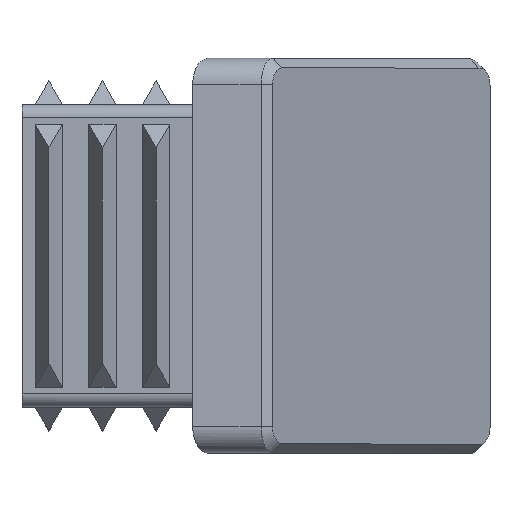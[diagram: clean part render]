
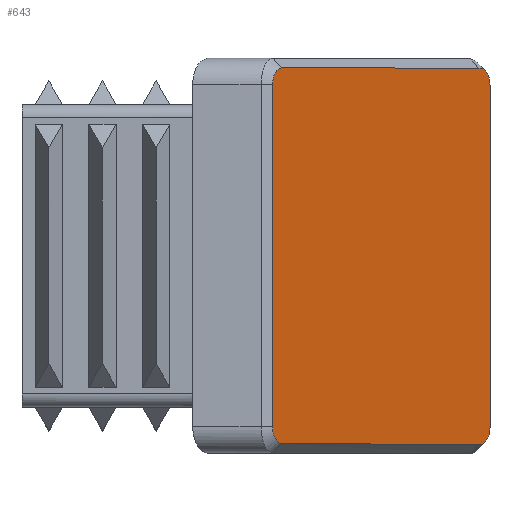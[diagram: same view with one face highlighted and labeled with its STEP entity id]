
A CAD part, top view. The second image highlights one B-rep face of the part: STEP entity #643.
In plain terms, the highlighted planar face has unit normal (0.866, 0, 0.5).
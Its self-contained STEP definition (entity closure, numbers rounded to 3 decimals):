
#6 = CARTESIAN_POINT ( 'NONE',  ( 94.415, 29.293, 32.052 ) ) ;
#22 = DIRECTION ( 'NONE',  ( 0., -1., 0. ) ) ;
#46 = CARTESIAN_POINT ( 'NONE',  ( 95.144, 1.272, 30.789 ) ) ;
#50 = CARTESIAN_POINT ( 'NONE',  ( 78.453, 30., 59.698 ) ) ;
#67 = EDGE_CURVE ( 'NONE', #1154, #1789, #399, .T. ) ;
#77 = CARTESIAN_POINT ( 'NONE',  ( 78.885, 1.233, 58.95 ) ) ;
#200 = EDGE_CURVE ( 'NONE', #1865, #1154, #1500, .T. ) ;
#238 = CARTESIAN_POINT ( 'NONE',  ( 78.742, 28., 59.198 ) ) ;
#240 = CARTESIAN_POINT ( 'NONE',  ( 95.041, 1.057, 30.967 ) ) ;
#247 = CARTESIAN_POINT ( 'NONE',  ( 95.241, 28.38, 30.622 ) ) ;
#304 = CARTESIAN_POINT ( 'NONE',  ( 78.905, 1.19, 58.916 ) ) ;
#314 = ORIENTED_EDGE ( 'NONE', *, *, #2303, .T. ) ;
#321 = CARTESIAN_POINT ( 'NONE',  ( 78.742, 2., 59.198 ) ) ;
#348 = ORIENTED_EDGE ( 'NONE', *, *, #2866, .T. ) ;
#399 = LINE ( 'NONE', #1353, #1635 ) ;
#424 = CARTESIAN_POINT ( 'NONE',  ( 79.404, 0.707, 58.052 ) ) ;
#440 = CARTESIAN_POINT ( 'NONE',  ( 95.084, 28.882, 30.893 ) ) ;
#454 = CARTESIAN_POINT ( 'NONE',  ( 95.15, 28.736, 30.779 ) ) ;
#482 = CARTESIAN_POINT ( 'NONE',  ( 95.274, 1.805, 30.565 ) ) ;
#494 = CARTESIAN_POINT ( 'NONE',  ( 79.165, 29.194, 58.466 ) ) ;
#511 = DIRECTION ( 'NONE',  ( -0.5, 0., 0.866 ) ) ;
#537 = CARTESIAN_POINT ( 'NONE',  ( 78.742, 1.845, 59.198 ) ) ;
#538 = CARTESIAN_POINT ( 'NONE',  ( 95.274, 30., 30.565 ) ) ;
#618 = CARTESIAN_POINT ( 'NONE',  ( 94.415, 0.707, 32.052 ) ) ;
#624 = EDGE_LOOP ( 'NONE', ( #1395, #314, #348, #1855, #2527, #1430, #633, #2272 ) ) ;
#633 = ORIENTED_EDGE ( 'NONE', *, *, #67, .T. ) ;
#643 = ADVANCED_FACE ( 'NONE', ( #2855 ), #1456, .F. ) ;
#661 = CARTESIAN_POINT ( 'NONE',  ( 95.097, 1.157, 30.87 ) ) ;
#667 = CARTESIAN_POINT ( 'NONE',  ( 95.274, 28., 30.565 ) ) ;
#683 = CARTESIAN_POINT ( 'NONE',  ( 78.742, 2., 59.198 ) ) ;
#688 = CARTESIAN_POINT ( 'NONE',  ( 94.524, 0.683, 31.862 ) ) ;
#716 = B_SPLINE_CURVE_WITH_KNOTS ( 'NONE', 3,
 ( #667, #2082, #1133, #247, #2065, #1588, #454, #440, #1360, #1374, #6 ),
 .UNSPECIFIED., .F., .F.,
 ( 4, 1, 2, 2, 2, 4 ),
 ( 0., 0.125, 0.188, 0.25, 0.5, 1. ),
 .UNSPECIFIED. ) ;
#717 = DIRECTION ( 'NONE',  ( -0.5, 0., 0.866 ) ) ;
#730 = CARTESIAN_POINT ( 'NONE',  ( 78.917, 28.836, 58.896 ) ) ;
#901 = CARTESIAN_POINT ( 'NONE',  ( 78.966, 28.931, 58.809 ) ) ;
#933 = CARTESIAN_POINT ( 'NONE',  ( 78.863, 1.287, 58.989 ) ) ;
#935 = CARTESIAN_POINT ( 'NONE',  ( 94.821, 0.801, 31.348 ) ) ;
#959 = EDGE_CURVE ( 'NONE', #2553, #1107, #2618, .T. ) ;
#998 = CARTESIAN_POINT ( 'NONE',  ( 79.036, 0.91, 58.689 ) ) ;
#1047 = CARTESIAN_POINT ( 'NONE',  ( 79.404, 29.293, 58.052 ) ) ;
#1056 = CARTESIAN_POINT ( 'NONE',  ( 78.742, 28., 59.198 ) ) ;
#1107 = VERTEX_POINT ( 'NONE', #1522 ) ;
#1133 = CARTESIAN_POINT ( 'NONE',  ( 95.264, 28.24, 30.581 ) ) ;
#1154 = VERTEX_POINT ( 'NONE', #424 ) ;
#1160 = CARTESIAN_POINT ( 'NONE',  ( 95.173, 1.353, 30.739 ) ) ;
#1175 = CARTESIAN_POINT ( 'NONE',  ( 78.937, 28.877, 58.86 ) ) ;
#1189 = CARTESIAN_POINT ( 'NONE',  ( 94.415, 29.293, 32.052 ) ) ;
#1218 = B_SPLINE_CURVE_WITH_KNOTS ( 'NONE', 3,
 ( #2811, #1594, #494, #2537, #901, #1175, #1426, #730, #2751, #1861, #1384, #238 ),
 .UNSPECIFIED., .F., .F.,
 ( 4, 1, 1, 1, 1, 2, 2, 4 ),
 ( 0., 0.25, 0.375, 0.438, 0.469, 0.484, 0.5, 1. ),
 .UNSPECIFIED. ) ;
#1232 = AXIS2_PLACEMENT_3D ( 'NONE', #50, #2168, #511 ) ;
#1319 = DIRECTION ( 'NONE',  ( 0.5, 0., -0.866 ) ) ;
#1353 = CARTESIAN_POINT ( 'NONE',  ( 78.453, 0.707, 59.698 ) ) ;
#1360 = CARTESIAN_POINT ( 'NONE',  ( 94.829, 29.245, 31.334 ) ) ;
#1374 = CARTESIAN_POINT ( 'NONE',  ( 94.634, 29.342, 31.671 ) ) ;
#1381 = VECTOR ( 'NONE', #717, 1000. ) ;
#1384 = CARTESIAN_POINT ( 'NONE',  ( 78.742, 28.31, 59.198 ) ) ;
#1395 = ORIENTED_EDGE ( 'NONE', *, *, #959, .T. ) ;
#1426 = CARTESIAN_POINT ( 'NONE',  ( 78.925, 28.852, 58.882 ) ) ;
#1430 = ORIENTED_EDGE ( 'NONE', *, *, #200, .T. ) ;
#1447 = CARTESIAN_POINT ( 'NONE',  ( 79.201, 0.752, 58.403 ) ) ;
#1456 = PLANE ( 'NONE',  #1232 ) ;
#1459 = DIRECTION ( 'NONE',  ( 0., 1., 0. ) ) ;
#1500 = B_SPLINE_CURVE_WITH_KNOTS ( 'NONE', 3,
 ( #321, #537, #2632, #2844, #933, #77, #2832, #2393, #304, #998, #1447, #1860 ),
 .UNSPECIFIED., .F., .F.,
 ( 4, 1, 1, 1, 1, 2, 2, 4 ),
 ( 0., 0.25, 0.375, 0.438, 0.469, 0.484, 0.5, 1. ),
 .UNSPECIFIED. ) ;
#1522 = CARTESIAN_POINT ( 'NONE',  ( 95.274, 28., 30.565 ) ) ;
#1540 = EDGE_CURVE ( 'NONE', #2768, #2192, #1218, .T. ) ;
#1549 = VERTEX_POINT ( 'NONE', #1189 ) ;
#1580 = CARTESIAN_POINT ( 'NONE',  ( 95.274, 2., 30.565 ) ) ;
#1588 = CARTESIAN_POINT ( 'NONE',  ( 95.21, 28.518, 30.674 ) ) ;
#1594 = CARTESIAN_POINT ( 'NONE',  ( 79.302, 29.27, 58.227 ) ) ;
#1611 = CARTESIAN_POINT ( 'NONE',  ( 94.912, 0.885, 31.19 ) ) ;
#1635 = VECTOR ( 'NONE', #1319, 1000. ) ;
#1717 = VECTOR ( 'NONE', #22, 1000. ) ;
#1789 = VERTEX_POINT ( 'NONE', #618 ) ;
#1855 = ORIENTED_EDGE ( 'NONE', *, *, #1540, .T. ) ;
#1860 = CARTESIAN_POINT ( 'NONE',  ( 79.404, 0.707, 58.052 ) ) ;
#1861 = CARTESIAN_POINT ( 'NONE',  ( 78.797, 28.583, 59.102 ) ) ;
#1862 = CARTESIAN_POINT ( 'NONE',  ( 95.186, 1.393, 30.717 ) ) ;
#1865 = VERTEX_POINT ( 'NONE', #683 ) ;
#2065 = CARTESIAN_POINT ( 'NONE',  ( 95.222, 28.471, 30.654 ) ) ;
#2082 = CARTESIAN_POINT ( 'NONE',  ( 95.274, 28.097, 30.565 ) ) ;
#2168 = DIRECTION ( 'NONE',  ( -0.866, 0., -0.5 ) ) ;
#2192 = VERTEX_POINT ( 'NONE', #1056 ) ;
#2272 = ORIENTED_EDGE ( 'NONE', *, *, #2542, .T. ) ;
#2292 = LINE ( 'NONE', #2759, #1717 ) ;
#2300 = VECTOR ( 'NONE', #1459, 1000. ) ;
#2301 = CARTESIAN_POINT ( 'NONE',  ( 95.248, 1.618, 30.608 ) ) ;
#2303 = EDGE_CURVE ( 'NONE', #1107, #1549, #716, .T. ) ;
#2323 = EDGE_CURVE ( 'NONE', #2192, #1865, #2292, .T. ) ;
#2393 = CARTESIAN_POINT ( 'NONE',  ( 78.902, 1.196, 58.921 ) ) ;
#2524 = CARTESIAN_POINT ( 'NONE',  ( 94.68, 0.701, 31.593 ) ) ;
#2527 = ORIENTED_EDGE ( 'NONE', *, *, #2323, .T. ) ;
#2537 = CARTESIAN_POINT ( 'NONE',  ( 79.028, 29.031, 58.702 ) ) ;
#2539 = CARTESIAN_POINT ( 'NONE',  ( 94.957, 0.937, 31.112 ) ) ;
#2542 = EDGE_CURVE ( 'NONE', #1789, #2553, #2738, .T. ) ;
#2553 = VERTEX_POINT ( 'NONE', #2784 ) ;
#2618 = LINE ( 'NONE', #538, #2300 ) ;
#2632 = CARTESIAN_POINT ( 'NONE',  ( 78.763, 1.627, 59.162 ) ) ;
#2733 = CARTESIAN_POINT ( 'NONE',  ( 94.415, 0.707, 32.052 ) ) ;
#2738 = B_SPLINE_CURVE_WITH_KNOTS ( 'NONE', 3,
 ( #2733, #688, #2524, #935, #1611, #2539, #240, #661, #46, #1160, #1862, #2301, #482, #1580 ),
 .UNSPECIFIED., .F., .F.,
 ( 4, 1, 2, 2, 1, 2, 2, 4 ),
 ( 0., 0.25, 0.375, 0.5, 0.625, 0.687, 0.75, 1. ),
 .UNSPECIFIED. ) ;
#2749 = LINE ( 'NONE', #2779, #1381 ) ;
#2751 = CARTESIAN_POINT ( 'NONE',  ( 78.912, 28.826, 58.903 ) ) ;
#2759 = CARTESIAN_POINT ( 'NONE',  ( 78.742, 30., 59.198 ) ) ;
#2768 = VERTEX_POINT ( 'NONE', #1047 ) ;
#2779 = CARTESIAN_POINT ( 'NONE',  ( 79.404, 29.293, 58.052 ) ) ;
#2784 = CARTESIAN_POINT ( 'NONE',  ( 95.274, 2., 30.565 ) ) ;
#2811 = CARTESIAN_POINT ( 'NONE',  ( 79.404, 29.293, 58.052 ) ) ;
#2832 = CARTESIAN_POINT ( 'NONE',  ( 78.895, 1.211, 58.933 ) ) ;
#2844 = CARTESIAN_POINT ( 'NONE',  ( 78.823, 1.396, 59.057 ) ) ;
#2855 = FACE_OUTER_BOUND ( 'NONE', #624, .T. ) ;
#2866 = EDGE_CURVE ( 'NONE', #1549, #2768, #2749, .T. ) ;
